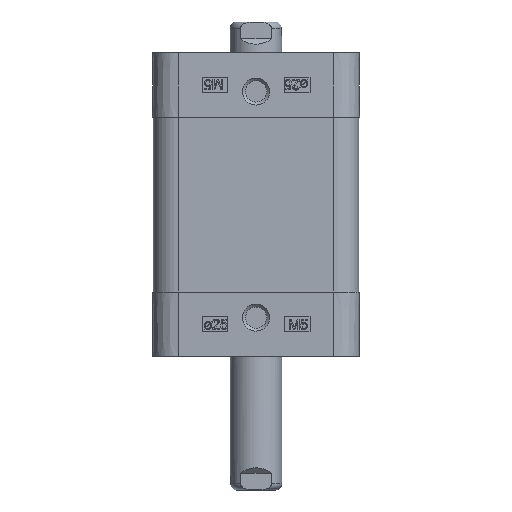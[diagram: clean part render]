
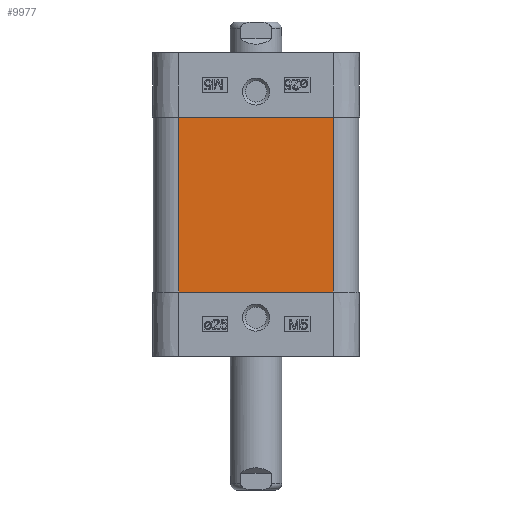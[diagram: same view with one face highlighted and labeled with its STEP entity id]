
A CAD part, left-side view. The second image highlights one B-rep face of the part: STEP entity #9977.
In plain terms, the highlighted planar face has unit normal (-1, 0, 0).
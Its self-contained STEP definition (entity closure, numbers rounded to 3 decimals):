
#548=LINE('',#17983,#1428);
#576=LINE('',#18096,#1456);
#658=LINE('',#18316,#1538);
#659=LINE('',#18318,#1539);
#1428=VECTOR('',#15287,1000.);
#1456=VECTOR('',#15373,1000.);
#1538=VECTOR('',#15619,1000.);
#1539=VECTOR('',#15622,1000.);
#2585=ORIENTED_EDGE('',*,*,#5211,.T.);
#2586=ORIENTED_EDGE('',*,*,#5377,.T.);
#2587=ORIENTED_EDGE('',*,*,#5378,.T.);
#2588=ORIENTED_EDGE('',*,*,#5267,.F.);
#5211=EDGE_CURVE('',#6662,#6663,#548,.T.);
#5267=EDGE_CURVE('',#6662,#6718,#576,.T.);
#5377=EDGE_CURVE('',#6663,#6773,#658,.T.);
#5378=EDGE_CURVE('',#6773,#6718,#659,.T.);
#6662=VERTEX_POINT('',#17984);
#6663=VERTEX_POINT('',#17985);
#6718=VERTEX_POINT('',#18097);
#6773=VERTEX_POINT('',#18315);
#8112=EDGE_LOOP('',(#2585,#2586,#2587,#2588));
#8894=FACE_BOUND('',#8112,.T.);
#9647=PLANE('',#14486);
#9977=ADVANCED_FACE('',(#8894),#9647,.T.);
#14486=AXIS2_PLACEMENT_3D('',#18317,#15620,#15621);
#15287=DIRECTION('',(0.,0.,-1.));
#15373=DIRECTION('',(0.,-1.,0.));
#15619=DIRECTION('',(0.,-1.,0.));
#15620=DIRECTION('',(-1.,0.,0.));
#15621=DIRECTION('',(0.,0.,1.));
#15622=DIRECTION('',(0.,0.,1.));
#17983=CARTESIAN_POINT('',(-20.,24.5,15.));
#17984=CARTESIAN_POINT('',(-20.,24.5,15.));
#17985=CARTESIAN_POINT('',(-20.,24.5,-15.));
#18096=CARTESIAN_POINT('',(-20.,9.5,15.));
#18097=CARTESIAN_POINT('',(-20.,-9.5,15.));
#18315=CARTESIAN_POINT('',(-20.,-9.5,-15.));
#18316=CARTESIAN_POINT('',(-20.,9.5,-15.));
#18317=CARTESIAN_POINT('',(-20.,0.,15.));
#18318=CARTESIAN_POINT('',(-20.,-9.5,-15.));
